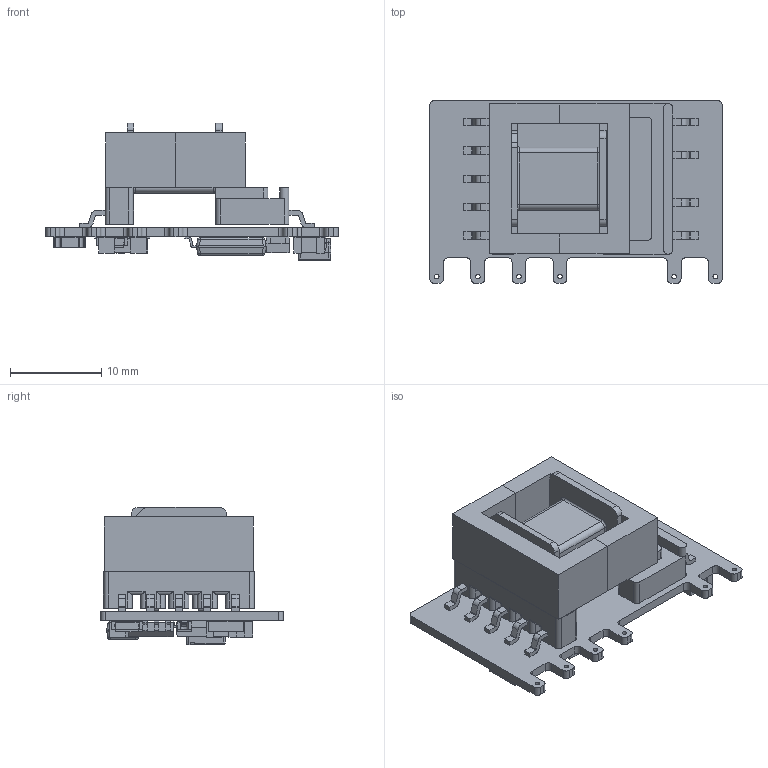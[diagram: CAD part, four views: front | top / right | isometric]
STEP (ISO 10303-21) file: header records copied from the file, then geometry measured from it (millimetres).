
FILE_DESCRIPTION (( 'STEP AP214' ), '1' );
FILE_NAME ('LS10-13B03R3.STEP', '2021-04-20T18:15:17', ( '' ), ( '' ), 'SwSTEP 2.0', 'SolidWorks 2017', '' );
FILE_SCHEMA (( 'AUTOMOTIVE_DESIGN' ));
Length unit declared in the file: millimetre
Products named in the file (1): LS10-13B03R3
Bounding box: 32 x 20 x 15.05 mm (x, y, z)
Volume: 2523.2 mm3; surface area: 4645.2 mm2
Topology: 36 solids, 36 shells, 1689 faces, 4537 edges, 2984 vertices
Faces by surface type: plane 1224, cylinder 261, bspline 202, cone 2
Full cylindrical faces by diameter (mm): 0.3 x1, 0.4 x1, 0.5 x6
Entity records: 85538 total; most frequent: CARTESIAN_POINT 26329, ORIENTED_EDGE 9056, DIRECTION 7407, EDGE_CURVE 4528, LINE 3583, VECTOR 3583, VERTEX_POINT 2984, AXIS2_PLACEMENT_3D 1912
